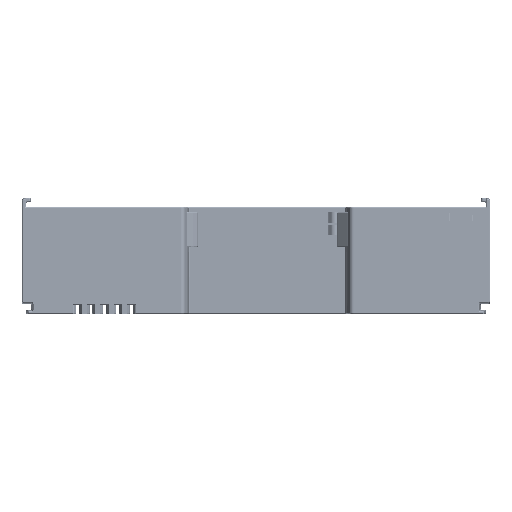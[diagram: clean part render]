
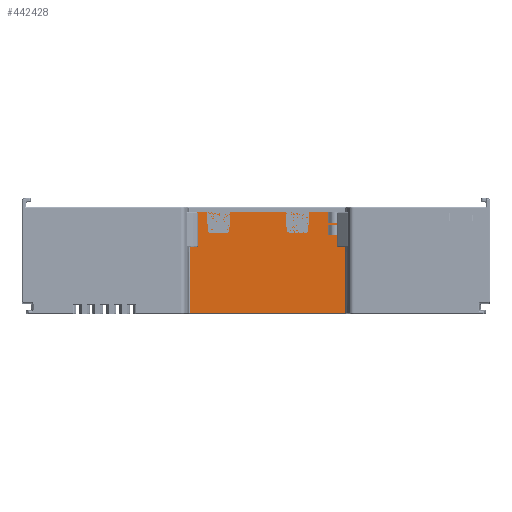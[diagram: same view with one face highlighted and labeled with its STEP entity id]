
A CAD part, front view. The second image highlights one B-rep face of the part: STEP entity #442428.
In plain terms, the highlighted planar face has unit normal (0, -1, 0).
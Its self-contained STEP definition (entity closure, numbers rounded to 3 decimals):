
#216224=DIRECTION('',(-1.,0.,0.));
#216225=VECTOR('',#216224,0.2);
#216226=CARTESIAN_POINT('',(17.6,5.6,15.05));
#216227=LINE('',#216226,#216225);
#216231=DIRECTION('',(0.,0.,-1.));
#216232=VECTOR('',#216231,0.05);
#216233=CARTESIAN_POINT('',(17.6,5.6,15.05));
#216234=LINE('',#216233,#216232);
#216238=DIRECTION('',(-1.,0.,0.));
#216239=VECTOR('',#216238,0.2);
#216240=CARTESIAN_POINT('',(17.6,5.6,15.));
#216241=LINE('',#216240,#216239);
#216245=CARTESIAN_POINT('',(-17.4,5.6,15.069));
#216246=CARTESIAN_POINT('',(-17.362,5.6,15.087));
#216247=CARTESIAN_POINT('',(-17.309,5.6,15.138));
#216248=CARTESIAN_POINT('',(-17.285,5.6,15.208));
#216249=CARTESIAN_POINT('',(-17.285,5.6,15.25));
#216254=DIRECTION('',(0.,0.,1.));
#216255=VECTOR('',#216254,7.4);
#216256=CARTESIAN_POINT('',(-17.285,5.6,15.25));
#216257=LINE('',#216256,#216255);
#216261=CARTESIAN_POINT('',(-17.285,5.6,22.65));
#216262=CARTESIAN_POINT('',(-17.285,5.6,22.692));
#216263=CARTESIAN_POINT('',(-17.309,5.6,22.762));
#216264=CARTESIAN_POINT('',(-17.362,5.6,22.813));
#216265=CARTESIAN_POINT('',(-17.4,5.6,22.831));
#216270=DIRECTION('',(1.,0.,0.));
#216271=VECTOR('',#216270,35.);
#216272=CARTESIAN_POINT('',(-17.4,5.6,22.9));
#216273=LINE('',#216272,#216271);
#216277=DIRECTION('',(0.,0.,-1.));
#216278=VECTOR('',#216277,0.05);
#216279=CARTESIAN_POINT('',(17.6,5.6,22.9));
#216280=LINE('',#216279,#216278);
#216284=DIRECTION('',(-1.,0.,0.));
#216285=VECTOR('',#216284,0.2);
#216286=CARTESIAN_POINT('',(17.6,5.6,22.85));
#216287=LINE('',#216286,#216285);
#216291=CARTESIAN_POINT('',(17.4,5.6,22.65));
#216292=DIRECTION('',(0.,-1.,0.));
#216293=DIRECTION('',(0.,0.,1.));
#216294=AXIS2_PLACEMENT_3D('',#216291,#216292,#216293);
#216299=DIRECTION('',(0.,0.,-1.));
#216300=VECTOR('',#216299,7.4);
#216301=CARTESIAN_POINT('',(17.2,5.6,22.65));
#216302=LINE('',#216301,#216300);
#216306=CARTESIAN_POINT('',(17.4,5.6,15.25));
#216307=DIRECTION('',(0.,1.,0.));
#216308=DIRECTION('',(0.,0.,-1.));
#216309=AXIS2_PLACEMENT_3D('',#216306,#216307,#216308);
#259616=DIRECTION('',(1.,0.,0.));
#259617=VECTOR('',#259616,34.8);
#259618=CARTESIAN_POINT('',(-17.4,5.6,0.2));
#259619=LINE('',#259618,#259617);
#316962=DIRECTION('',(0.,0.,-1.));
#316963=VECTOR('',#316962,0.069);
#316964=CARTESIAN_POINT('',(-17.4,5.6,22.9));
#316965=LINE('',#316964,#316963);
#316969=CARTESIAN_POINT('',(-17.4,5.6,22.831));
#317018=CARTESIAN_POINT('',(-17.4,5.6,15.069));
#317023=DIRECTION('',(0.,0.,-1.));
#317024=VECTOR('',#317023,14.869);
#317025=CARTESIAN_POINT('',(-17.4,5.6,15.069));
#317026=LINE('',#317025,#317024);
#317664=DIRECTION('',(0.,0.,1.));
#317665=VECTOR('',#317664,14.8);
#317666=CARTESIAN_POINT('',(17.4,5.6,0.2));
#317667=LINE('',#317666,#317665);
#416467=CARTESIAN_POINT('',(-17.4,5.6,22.9));
#416468=CARTESIAN_POINT('',(17.6,5.6,22.9));
#416469=VERTEX_POINT('',#416467);
#416470=VERTEX_POINT('',#416468);
#420918=CARTESIAN_POINT('',(17.6,5.6,15.));
#420919=CARTESIAN_POINT('',(17.4,5.6,15.));
#420920=VERTEX_POINT('',#420918);
#420921=VERTEX_POINT('',#420919);
#421515=CARTESIAN_POINT('',(17.4,5.6,0.2));
#421516=VERTEX_POINT('',#421515);
#421517=CARTESIAN_POINT('',(-17.4,5.6,0.2));
#421518=VERTEX_POINT('',#421517);
#424475=VERTEX_POINT('',#317018);
#424476=VERTEX_POINT('',#316969);
#424477=CARTESIAN_POINT('',(17.6,5.6,15.05));
#424478=CARTESIAN_POINT('',(17.4,5.6,15.05));
#424479=VERTEX_POINT('',#424477);
#424480=VERTEX_POINT('',#424478);
#424481=CARTESIAN_POINT('',(17.6,5.6,22.85));
#424482=CARTESIAN_POINT('',(17.4,5.6,22.85));
#424483=VERTEX_POINT('',#424481);
#424484=VERTEX_POINT('',#424482);
#424485=CARTESIAN_POINT('',(-17.285,5.6,15.25));
#424486=CARTESIAN_POINT('',(-17.285,5.6,22.65));
#424487=VERTEX_POINT('',#424485);
#424488=VERTEX_POINT('',#424486);
#424489=CARTESIAN_POINT('',(17.2,5.6,22.65));
#424490=CARTESIAN_POINT('',(17.2,5.6,15.25));
#424491=VERTEX_POINT('',#424489);
#424492=VERTEX_POINT('',#424490);
#442390=CARTESIAN_POINT('',(17.4,5.6,22.9));
#442391=DIRECTION('',(0.,1.,0.));
#442392=DIRECTION('',(-1.,0.,0.));
#442393=AXIS2_PLACEMENT_3D('',#442390,#442391,#442392);
#442394=PLANE('',#442393);
#442396=ORIENTED_EDGE('',*,*,#442395,.F.);
#442398=ORIENTED_EDGE('',*,*,#442397,.T.);
#442400=ORIENTED_EDGE('',*,*,#442399,.T.);
#442402=ORIENTED_EDGE('',*,*,#442401,.F.);
#442404=ORIENTED_EDGE('',*,*,#442403,.F.);
#442406=ORIENTED_EDGE('',*,*,#442405,.F.);
#442408=ORIENTED_EDGE('',*,*,#442407,.T.);
#442410=ORIENTED_EDGE('',*,*,#442409,.T.);
#442412=ORIENTED_EDGE('',*,*,#442411,.T.);
#442414=ORIENTED_EDGE('',*,*,#442413,.F.);
#442415=ORIENTED_EDGE('',*,*,#442127,.T.);
#442417=ORIENTED_EDGE('',*,*,#442416,.T.);
#442419=ORIENTED_EDGE('',*,*,#442418,.T.);
#442421=ORIENTED_EDGE('',*,*,#442420,.T.);
#442423=ORIENTED_EDGE('',*,*,#442422,.T.);
#442425=ORIENTED_EDGE('',*,*,#442424,.F.);
#442426=EDGE_LOOP('',(#442396,#442398,#442400,#442402,#442404,#442406,#442408,
#442410,#442412,#442414,#442415,#442417,#442419,#442421,#442423,#442425));
#442427=FACE_OUTER_BOUND('',#442426,.F.);
#442428=ADVANCED_FACE('',(#442427),#442394,.F.);
#216250=B_SPLINE_CURVE_WITH_KNOTS('',3,(#216245,#216246,#216247,#216248,
#216249),.UNSPECIFIED.,.F.,.F.,(4,1,4),(0.,0.5,1.),.UNSPECIFIED.);
#216266=B_SPLINE_CURVE_WITH_KNOTS('',3,(#216261,#216262,#216263,#216264,
#216265),.UNSPECIFIED.,.F.,.F.,(4,1,4),(0.,0.5,1.),.UNSPECIFIED.);
#216295=CIRCLE('',#216294,0.2);
#216310=CIRCLE('',#216309,0.2);
#442127=EDGE_CURVE('',#416469,#416470,#216273,.T.);
#442395=EDGE_CURVE('',#424479,#424480,#216227,.T.);
#442397=EDGE_CURVE('',#424479,#420920,#216234,.T.);
#442399=EDGE_CURVE('',#420920,#420921,#216241,.T.);
#442401=EDGE_CURVE('',#421516,#420921,#317667,.T.);
#442403=EDGE_CURVE('',#421518,#421516,#259619,.T.);
#442405=EDGE_CURVE('',#424475,#421518,#317026,.T.);
#442407=EDGE_CURVE('',#424475,#424487,#216250,.T.);
#442409=EDGE_CURVE('',#424487,#424488,#216257,.T.);
#442411=EDGE_CURVE('',#424488,#424476,#216266,.T.);
#442413=EDGE_CURVE('',#416469,#424476,#316965,.T.);
#442416=EDGE_CURVE('',#416470,#424483,#216280,.T.);
#442418=EDGE_CURVE('',#424483,#424484,#216287,.T.);
#442420=EDGE_CURVE('',#424484,#424491,#216295,.T.);
#442422=EDGE_CURVE('',#424491,#424492,#216302,.T.);
#442424=EDGE_CURVE('',#424480,#424492,#216310,.T.);
